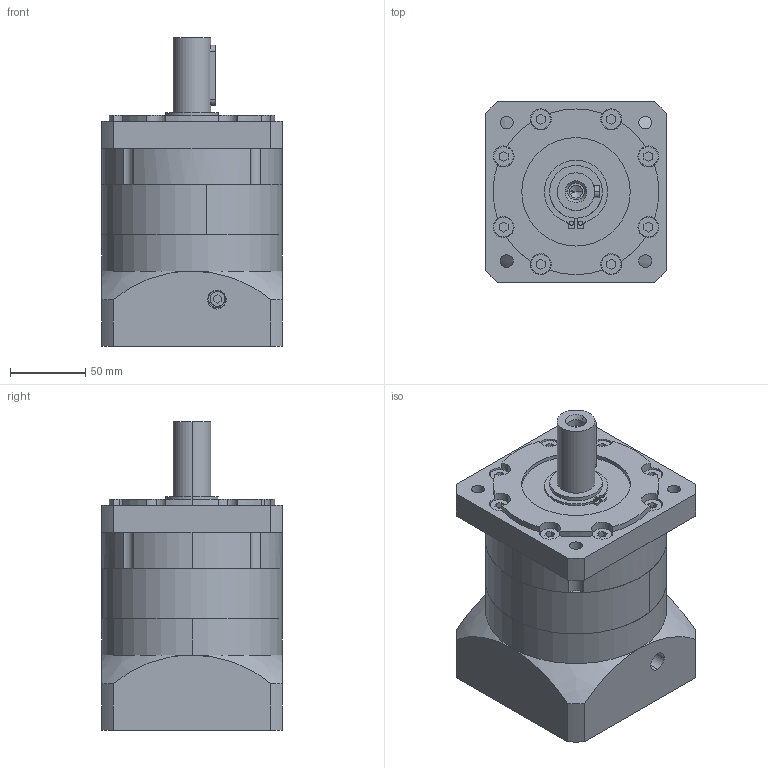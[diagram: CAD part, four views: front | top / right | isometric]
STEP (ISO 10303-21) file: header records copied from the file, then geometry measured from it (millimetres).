
FILE_DESCRIPTION(('FreeCAD Model'),'2;1');
FILE_NAME('Open CASCADE Shape Model','2024-10-07T11:12:34',('Author'),( ''),'Open CASCADE STEP processor 7.6','FreeCAD','Unknown');
FILE_SCHEMA(('AUTOMOTIVE_DESIGN { 1 0 10303 214 1 1 1 1 }'));
Length unit declared in the file: millimetre
Products named in the file (8): AE-120-L1_in22_130; SOLID; SOLID001; SOLID002; SOLID003; SOLID004; SOLID005; SOLID006
Assembly tree (7 placements, depth 2):
  AE-120-L1_in22_130
    SOLID
    SOLID001
    SOLID002
    SOLID003
    SOLID004
    SOLID005
    SOLID006
Bounding box: 120 x 120 x 205 mm (x, y, z)
Volume: 1697623 mm3; surface area: 234293.5 mm2
Topology: 7 solids, 15 shells, 567 faces, 1512 edges, 987 vertices
Faces by surface type: cylinder 206, plane 199, bspline 148, cone 14
Entity records: 24303 total; most frequent: CARTESIAN_POINT 9615, ORIENTED_EDGE 3004, DIRECTION 2596, EDGE_CURVE 1502, AXIS2_PLACEMENT_3D 1058, VERTEX_POINT 987, FACE_BOUND 665, EDGE_LOOP 665
